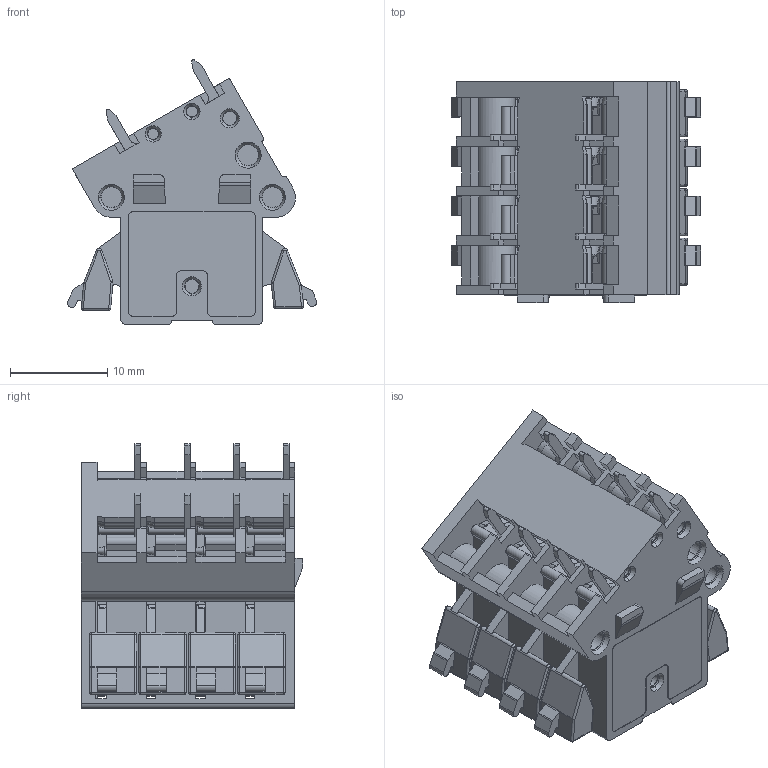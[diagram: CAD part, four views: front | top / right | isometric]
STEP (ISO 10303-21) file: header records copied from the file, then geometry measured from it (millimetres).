
FILE_DESCRIPTION((''),'2;1');
FILE_NAME('H9-04','2021-03-15T',('renkang.li'),(''),'CREO PARAMETRIC BY PTC INC, 2016260','CREO PARAMETRIC BY PTC INC, 2016260','');
FILE_SCHEMA(('CONFIG_CONTROL_DESIGN'));
Products named in the file (1): H9-04
Bounding box: 25.59 x 22.72 x 27.19 mm (x, y, z)
Volume: 5074.3 mm3; surface area: 11176.9 mm2
Topology: 1 solids, 19 shells, 2644 faces, 7207 edges, 4535 vertices
Faces by surface type: plane 1253, cylinder 843, cone 350, torus 94, sphere 64, bspline 40
Entity records: 85820 total; most frequent: CARTESIAN_POINT 17818, DIRECTION 14530, ORIENTED_EDGE 14278, EDGE_CURVE 7139, AXIS2_PLACEMENT_3D 5063, VERTEX_POINT 4535, VECTOR 4404, LINE 4404
